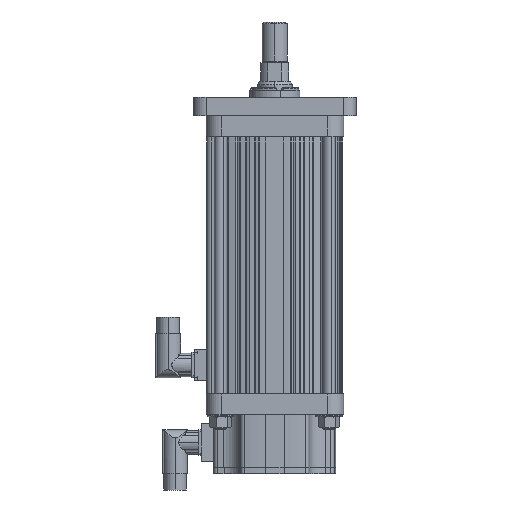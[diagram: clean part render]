
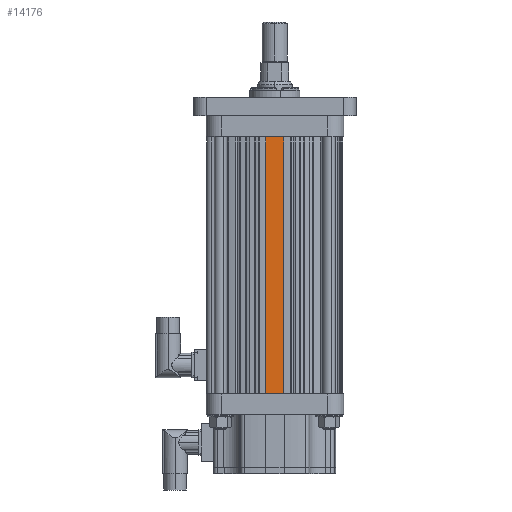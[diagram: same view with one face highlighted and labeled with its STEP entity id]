
A CAD part, left-side view. The second image highlights one B-rep face of the part: STEP entity #14176.
In plain terms, the highlighted planar face has unit normal (-1, 0, 0).
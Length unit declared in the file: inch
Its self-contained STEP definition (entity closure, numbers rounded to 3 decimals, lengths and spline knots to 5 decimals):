
#13493 = VERTEX_POINT ( 'NONE', #33778 ) ;
#13566 = EDGE_CURVE ( 'NONE', #13567, #13493, #33910, .T. ) ;
#13567 = VERTEX_POINT ( 'NONE', #33906 ) ;
#13699 = VERTEX_POINT ( 'NONE', #34149 ) ;
#13701 = EDGE_CURVE ( 'NONE', #13699, #13702, #34148, .T. ) ;
#13702 = VERTEX_POINT ( 'NONE', #34144 ) ;
#14176 = ADVANCED_FACE ( 'NONE', ( #34973 ), #34979, .F. ) ;
#14177 = EDGE_LOOP ( 'NONE', ( #14178, #14179, #14181, #14182 ) ) ;
#14178 = ORIENTED_EDGE ( 'NONE', *, *, #13566, .T. ) ;
#14179 = ORIENTED_EDGE ( 'NONE', *, *, #14180, .F. ) ;
#14180 = EDGE_CURVE ( 'NONE', #13702, #13493, #34968, .T. ) ;
#14181 = ORIENTED_EDGE ( 'NONE', *, *, #13701, .F. ) ;
#14182 = ORIENTED_EDGE ( 'NONE', *, *, #14197, .T. ) ;
#14197 = EDGE_CURVE ( 'NONE', #13699, #13567, #35011, .T. ) ;
#33778 = CARTESIAN_POINT ( 'NONE',  ( -2.71875, -0.366, -5.1375 ) ) ;
#33906 = CARTESIAN_POINT ( 'NONE',  ( -2.71875, 0.366, -5.1375 ) ) ;
#33907 = DIRECTION ( 'NONE',  ( 0., -1., 0. ) ) ;
#33908 = VECTOR ( 'NONE', #33907, 39.37008 ) ;
#33909 = CARTESIAN_POINT ( 'NONE',  ( -2.71875, 0.366, -5.1375 ) ) ;
#33910 = LINE ( 'NONE', #33909, #33908 ) ;
#34144 = CARTESIAN_POINT ( 'NONE',  ( -2.71875, -0.366, 5.1375 ) ) ;
#34145 = DIRECTION ( 'NONE',  ( 0., -1., 0. ) ) ;
#34146 = VECTOR ( 'NONE', #34145, 39.37008 ) ;
#34147 = CARTESIAN_POINT ( 'NONE',  ( -2.71875, 0.366, 5.1375 ) ) ;
#34148 = LINE ( 'NONE', #34147, #34146 ) ;
#34149 = CARTESIAN_POINT ( 'NONE',  ( -2.71875, 0.366, 5.1375 ) ) ;
#34966 = DIRECTION ( 'NONE',  ( 0., 0., -1. ) ) ;
#34967 = CARTESIAN_POINT ( 'NONE',  ( -2.71875, -0.366, 5.1375 ) ) ;
#34968 = LINE ( 'NONE', #34967, #35027 ) ;
#34969 = DIRECTION ( 'NONE',  ( 0., 0., -1. ) ) ;
#34970 = DIRECTION ( 'NONE',  ( 1., 0., 0. ) ) ;
#34971 = CARTESIAN_POINT ( 'NONE',  ( -2.71875, 0.366, 5.1375 ) ) ;
#34972 = AXIS2_PLACEMENT_3D ( 'NONE', #34971, #34970, #34969 ) ;
#34973 = FACE_OUTER_BOUND ( 'NONE', #14177, .T. ) ;
#34979 = PLANE ( 'NONE',  #34972 ) ;
#35003 = DIRECTION ( 'NONE',  ( 0., 0., -1. ) ) ;
#35004 = VECTOR ( 'NONE', #35003, 39.37008 ) ;
#35005 = CARTESIAN_POINT ( 'NONE',  ( -2.71875, 0.366, 5.1375 ) ) ;
#35011 = LINE ( 'NONE', #35005, #35004 ) ;
#35027 = VECTOR ( 'NONE', #34966, 39.37008 ) ;
